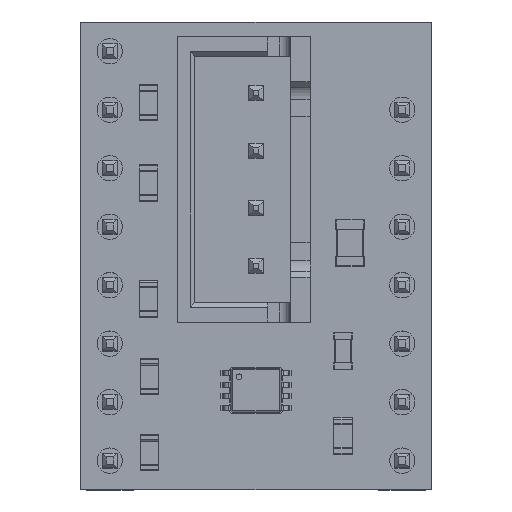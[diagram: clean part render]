
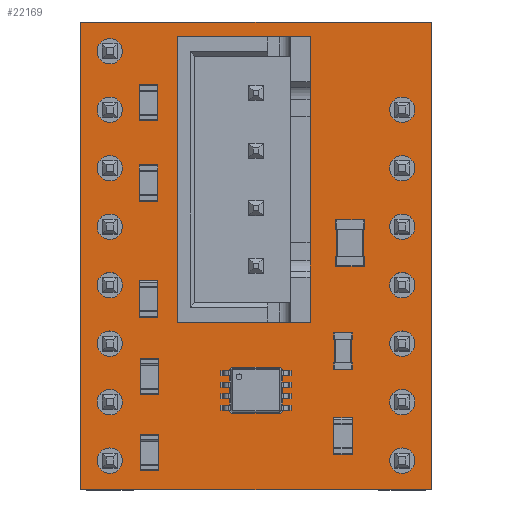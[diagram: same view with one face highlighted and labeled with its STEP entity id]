
A CAD part, top view. The second image highlights one B-rep face of the part: STEP entity #22169.
In plain terms, the highlighted planar face has unit normal (0, 0, 1).
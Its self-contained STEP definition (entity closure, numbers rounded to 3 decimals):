
#21848 = VERTEX_POINT('',#21849);
#21849 = CARTESIAN_POINT('',(15.24,0.,1.51));
#21855 = EDGE_CURVE('',#21848,#21856,#21858,.T.);
#21856 = VERTEX_POINT('',#21857);
#21857 = CARTESIAN_POINT('',(0.,0.,1.51));
#21858 = LINE('',#21859,#21860);
#21859 = CARTESIAN_POINT('',(15.24,0.,1.51));
#21860 = VECTOR('',#21861,1.);
#21861 = DIRECTION('',(-1.,0.,0.));
#21888 = VERTEX_POINT('',#21889);
#21889 = CARTESIAN_POINT('',(15.24,20.32,1.51));
#21895 = EDGE_CURVE('',#21888,#21848,#21896,.T.);
#21896 = LINE('',#21897,#21898);
#21897 = CARTESIAN_POINT('',(15.24,20.32,1.51));
#21898 = VECTOR('',#21899,1.);
#21899 = DIRECTION('',(0.,-1.,0.));
#21917 = EDGE_CURVE('',#21856,#21918,#21920,.T.);
#21918 = VERTEX_POINT('',#21919);
#21919 = CARTESIAN_POINT('',(0.,20.32,1.51));
#21920 = LINE('',#21921,#21922);
#21921 = CARTESIAN_POINT('',(0.,0.,1.51));
#21922 = VECTOR('',#21923,1.);
#21923 = DIRECTION('',(0.,1.,0.));
#22169 = ADVANCED_FACE('',(#22170,#22181,#22192,#22203,#22214,#22225,
    #22236,#22247,#22258,#22269,#22280,#22291,#22302,#22313,#22324,
    #22335,#22346,#22357,#22368,#22379),#22390,.T.);
#22170 = FACE_BOUND('',#22171,.T.);
#22171 = EDGE_LOOP('',(#22172,#22173,#22174,#22180));
#22172 = ORIENTED_EDGE('',*,*,#21855,.F.);
#22173 = ORIENTED_EDGE('',*,*,#21895,.F.);
#22174 = ORIENTED_EDGE('',*,*,#22175,.F.);
#22175 = EDGE_CURVE('',#21918,#21888,#22176,.T.);
#22176 = LINE('',#22177,#22178);
#22177 = CARTESIAN_POINT('',(0.,20.32,1.51));
#22178 = VECTOR('',#22179,1.);
#22179 = DIRECTION('',(1.,0.,0.));
#22180 = ORIENTED_EDGE('',*,*,#21917,.F.);
#22181 = FACE_BOUND('',#22182,.T.);
#22182 = EDGE_LOOP('',(#22183));
#22183 = ORIENTED_EDGE('',*,*,#22184,.T.);
#22184 = EDGE_CURVE('',#22185,#22185,#22187,.T.);
#22185 = VERTEX_POINT('',#22186);
#22186 = CARTESIAN_POINT('',(1.27,0.72,1.51));
#22187 = CIRCLE('',#22188,0.55);
#22188 = AXIS2_PLACEMENT_3D('',#22189,#22190,#22191);
#22189 = CARTESIAN_POINT('',(1.27,1.27,1.51));
#22190 = DIRECTION('',(-0.,0.,-1.));
#22191 = DIRECTION('',(-0.,-1.,0.));
#22192 = FACE_BOUND('',#22193,.T.);
#22193 = EDGE_LOOP('',(#22194));
#22194 = ORIENTED_EDGE('',*,*,#22195,.T.);
#22195 = EDGE_CURVE('',#22196,#22196,#22198,.T.);
#22196 = VERTEX_POINT('',#22197);
#22197 = CARTESIAN_POINT('',(1.27,3.26,1.51));
#22198 = CIRCLE('',#22199,0.55);
#22199 = AXIS2_PLACEMENT_3D('',#22200,#22201,#22202);
#22200 = CARTESIAN_POINT('',(1.27,3.81,1.51));
#22201 = DIRECTION('',(-0.,0.,-1.));
#22202 = DIRECTION('',(-0.,-1.,0.));
#22203 = FACE_BOUND('',#22204,.T.);
#22204 = EDGE_LOOP('',(#22205));
#22205 = ORIENTED_EDGE('',*,*,#22206,.T.);
#22206 = EDGE_CURVE('',#22207,#22207,#22209,.T.);
#22207 = VERTEX_POINT('',#22208);
#22208 = CARTESIAN_POINT('',(1.27,5.8,1.51));
#22209 = CIRCLE('',#22210,0.55);
#22210 = AXIS2_PLACEMENT_3D('',#22211,#22212,#22213);
#22211 = CARTESIAN_POINT('',(1.27,6.35,1.51));
#22212 = DIRECTION('',(-0.,0.,-1.));
#22213 = DIRECTION('',(-0.,-1.,0.));
#22214 = FACE_BOUND('',#22215,.T.);
#22215 = EDGE_LOOP('',(#22216));
#22216 = ORIENTED_EDGE('',*,*,#22217,.T.);
#22217 = EDGE_CURVE('',#22218,#22218,#22220,.T.);
#22218 = VERTEX_POINT('',#22219);
#22219 = CARTESIAN_POINT('',(1.27,8.34,1.51));
#22220 = CIRCLE('',#22221,0.55);
#22221 = AXIS2_PLACEMENT_3D('',#22222,#22223,#22224);
#22222 = CARTESIAN_POINT('',(1.27,8.89,1.51));
#22223 = DIRECTION('',(-0.,0.,-1.));
#22224 = DIRECTION('',(-0.,-1.,0.));
#22225 = FACE_BOUND('',#22226,.T.);
#22226 = EDGE_LOOP('',(#22227));
#22227 = ORIENTED_EDGE('',*,*,#22228,.T.);
#22228 = EDGE_CURVE('',#22229,#22229,#22231,.T.);
#22229 = VERTEX_POINT('',#22230);
#22230 = CARTESIAN_POINT('',(13.97,0.72,1.51));
#22231 = CIRCLE('',#22232,0.55);
#22232 = AXIS2_PLACEMENT_3D('',#22233,#22234,#22235);
#22233 = CARTESIAN_POINT('',(13.97,1.27,1.51));
#22234 = DIRECTION('',(-0.,0.,-1.));
#22235 = DIRECTION('',(0.,-1.,-0.));
#22236 = FACE_BOUND('',#22237,.T.);
#22237 = EDGE_LOOP('',(#22238));
#22238 = ORIENTED_EDGE('',*,*,#22239,.T.);
#22239 = EDGE_CURVE('',#22240,#22240,#22242,.T.);
#22240 = VERTEX_POINT('',#22241);
#22241 = CARTESIAN_POINT('',(13.97,3.26,1.51));
#22242 = CIRCLE('',#22243,0.55);
#22243 = AXIS2_PLACEMENT_3D('',#22244,#22245,#22246);
#22244 = CARTESIAN_POINT('',(13.97,3.81,1.51));
#22245 = DIRECTION('',(-0.,0.,-1.));
#22246 = DIRECTION('',(0.,-1.,-0.));
#22247 = FACE_BOUND('',#22248,.T.);
#22248 = EDGE_LOOP('',(#22249));
#22249 = ORIENTED_EDGE('',*,*,#22250,.T.);
#22250 = EDGE_CURVE('',#22251,#22251,#22253,.T.);
#22251 = VERTEX_POINT('',#22252);
#22252 = CARTESIAN_POINT('',(7.62,9.245,1.51));
#22253 = CIRCLE('',#22254,0.475);
#22254 = AXIS2_PLACEMENT_3D('',#22255,#22256,#22257);
#22255 = CARTESIAN_POINT('',(7.62,9.72,1.51));
#22256 = DIRECTION('',(-0.,0.,-1.));
#22257 = DIRECTION('',(-0.,-1.,0.));
#22258 = FACE_BOUND('',#22259,.T.);
#22259 = EDGE_LOOP('',(#22260));
#22260 = ORIENTED_EDGE('',*,*,#22261,.T.);
#22261 = EDGE_CURVE('',#22262,#22262,#22264,.T.);
#22262 = VERTEX_POINT('',#22263);
#22263 = CARTESIAN_POINT('',(13.97,5.8,1.51));
#22264 = CIRCLE('',#22265,0.55);
#22265 = AXIS2_PLACEMENT_3D('',#22266,#22267,#22268);
#22266 = CARTESIAN_POINT('',(13.97,6.35,1.51));
#22267 = DIRECTION('',(-0.,0.,-1.));
#22268 = DIRECTION('',(0.,-1.,-0.));
#22269 = FACE_BOUND('',#22270,.T.);
#22270 = EDGE_LOOP('',(#22271));
#22271 = ORIENTED_EDGE('',*,*,#22272,.T.);
#22272 = EDGE_CURVE('',#22273,#22273,#22275,.T.);
#22273 = VERTEX_POINT('',#22274);
#22274 = CARTESIAN_POINT('',(13.97,8.34,1.51));
#22275 = CIRCLE('',#22276,0.55);
#22276 = AXIS2_PLACEMENT_3D('',#22277,#22278,#22279);
#22277 = CARTESIAN_POINT('',(13.97,8.89,1.51));
#22278 = DIRECTION('',(-0.,0.,-1.));
#22279 = DIRECTION('',(0.,-1.,-0.));
#22280 = FACE_BOUND('',#22281,.T.);
#22281 = EDGE_LOOP('',(#22282));
#22282 = ORIENTED_EDGE('',*,*,#22283,.T.);
#22283 = EDGE_CURVE('',#22284,#22284,#22286,.T.);
#22284 = VERTEX_POINT('',#22285);
#22285 = CARTESIAN_POINT('',(1.27,10.88,1.51));
#22286 = CIRCLE('',#22287,0.55);
#22287 = AXIS2_PLACEMENT_3D('',#22288,#22289,#22290);
#22288 = CARTESIAN_POINT('',(1.27,11.43,1.51));
#22289 = DIRECTION('',(-0.,0.,-1.));
#22290 = DIRECTION('',(-0.,-1.,0.));
#22291 = FACE_BOUND('',#22292,.T.);
#22292 = EDGE_LOOP('',(#22293));
#22293 = ORIENTED_EDGE('',*,*,#22294,.T.);
#22294 = EDGE_CURVE('',#22295,#22295,#22297,.T.);
#22295 = VERTEX_POINT('',#22296);
#22296 = CARTESIAN_POINT('',(1.27,13.42,1.51));
#22297 = CIRCLE('',#22298,0.55);
#22298 = AXIS2_PLACEMENT_3D('',#22299,#22300,#22301);
#22299 = CARTESIAN_POINT('',(1.27,13.97,1.51));
#22300 = DIRECTION('',(-0.,0.,-1.));
#22301 = DIRECTION('',(-0.,-1.,0.));
#22302 = FACE_BOUND('',#22303,.T.);
#22303 = EDGE_LOOP('',(#22304));
#22304 = ORIENTED_EDGE('',*,*,#22305,.T.);
#22305 = EDGE_CURVE('',#22306,#22306,#22308,.T.);
#22306 = VERTEX_POINT('',#22307);
#22307 = CARTESIAN_POINT('',(1.27,15.96,1.51));
#22308 = CIRCLE('',#22309,0.55);
#22309 = AXIS2_PLACEMENT_3D('',#22310,#22311,#22312);
#22310 = CARTESIAN_POINT('',(1.27,16.51,1.51));
#22311 = DIRECTION('',(-0.,0.,-1.));
#22312 = DIRECTION('',(-0.,-1.,0.));
#22313 = FACE_BOUND('',#22314,.T.);
#22314 = EDGE_LOOP('',(#22315));
#22315 = ORIENTED_EDGE('',*,*,#22316,.T.);
#22316 = EDGE_CURVE('',#22317,#22317,#22319,.T.);
#22317 = VERTEX_POINT('',#22318);
#22318 = CARTESIAN_POINT('',(1.27,18.5,1.51));
#22319 = CIRCLE('',#22320,0.55);
#22320 = AXIS2_PLACEMENT_3D('',#22321,#22322,#22323);
#22321 = CARTESIAN_POINT('',(1.27,19.05,1.51));
#22322 = DIRECTION('',(-0.,0.,-1.));
#22323 = DIRECTION('',(-0.,-1.,0.));
#22324 = FACE_BOUND('',#22325,.T.);
#22325 = EDGE_LOOP('',(#22326));
#22326 = ORIENTED_EDGE('',*,*,#22327,.T.);
#22327 = EDGE_CURVE('',#22328,#22328,#22330,.T.);
#22328 = VERTEX_POINT('',#22329);
#22329 = CARTESIAN_POINT('',(7.62,11.745,1.51));
#22330 = CIRCLE('',#22331,0.475);
#22331 = AXIS2_PLACEMENT_3D('',#22332,#22333,#22334);
#22332 = CARTESIAN_POINT('',(7.62,12.22,1.51));
#22333 = DIRECTION('',(-0.,0.,-1.));
#22334 = DIRECTION('',(-0.,-1.,0.));
#22335 = FACE_BOUND('',#22336,.T.);
#22336 = EDGE_LOOP('',(#22337));
#22337 = ORIENTED_EDGE('',*,*,#22338,.T.);
#22338 = EDGE_CURVE('',#22339,#22339,#22341,.T.);
#22339 = VERTEX_POINT('',#22340);
#22340 = CARTESIAN_POINT('',(7.62,14.245,1.51));
#22341 = CIRCLE('',#22342,0.475);
#22342 = AXIS2_PLACEMENT_3D('',#22343,#22344,#22345);
#22343 = CARTESIAN_POINT('',(7.62,14.72,1.51));
#22344 = DIRECTION('',(-0.,0.,-1.));
#22345 = DIRECTION('',(-0.,-1.,0.));
#22346 = FACE_BOUND('',#22347,.T.);
#22347 = EDGE_LOOP('',(#22348));
#22348 = ORIENTED_EDGE('',*,*,#22349,.T.);
#22349 = EDGE_CURVE('',#22350,#22350,#22352,.T.);
#22350 = VERTEX_POINT('',#22351);
#22351 = CARTESIAN_POINT('',(13.97,10.88,1.51));
#22352 = CIRCLE('',#22353,0.55);
#22353 = AXIS2_PLACEMENT_3D('',#22354,#22355,#22356);
#22354 = CARTESIAN_POINT('',(13.97,11.43,1.51));
#22355 = DIRECTION('',(-0.,0.,-1.));
#22356 = DIRECTION('',(0.,-1.,-0.));
#22357 = FACE_BOUND('',#22358,.T.);
#22358 = EDGE_LOOP('',(#22359));
#22359 = ORIENTED_EDGE('',*,*,#22360,.T.);
#22360 = EDGE_CURVE('',#22361,#22361,#22363,.T.);
#22361 = VERTEX_POINT('',#22362);
#22362 = CARTESIAN_POINT('',(13.97,13.42,1.51));
#22363 = CIRCLE('',#22364,0.55);
#22364 = AXIS2_PLACEMENT_3D('',#22365,#22366,#22367);
#22365 = CARTESIAN_POINT('',(13.97,13.97,1.51));
#22366 = DIRECTION('',(-0.,0.,-1.));
#22367 = DIRECTION('',(0.,-1.,-0.));
#22368 = FACE_BOUND('',#22369,.T.);
#22369 = EDGE_LOOP('',(#22370));
#22370 = ORIENTED_EDGE('',*,*,#22371,.T.);
#22371 = EDGE_CURVE('',#22372,#22372,#22374,.T.);
#22372 = VERTEX_POINT('',#22373);
#22373 = CARTESIAN_POINT('',(7.62,16.745,1.51));
#22374 = CIRCLE('',#22375,0.475);
#22375 = AXIS2_PLACEMENT_3D('',#22376,#22377,#22378);
#22376 = CARTESIAN_POINT('',(7.62,17.22,1.51));
#22377 = DIRECTION('',(-0.,0.,-1.));
#22378 = DIRECTION('',(-0.,-1.,0.));
#22379 = FACE_BOUND('',#22380,.T.);
#22380 = EDGE_LOOP('',(#22381));
#22381 = ORIENTED_EDGE('',*,*,#22382,.T.);
#22382 = EDGE_CURVE('',#22383,#22383,#22385,.T.);
#22383 = VERTEX_POINT('',#22384);
#22384 = CARTESIAN_POINT('',(13.97,15.96,1.51));
#22385 = CIRCLE('',#22386,0.55);
#22386 = AXIS2_PLACEMENT_3D('',#22387,#22388,#22389);
#22387 = CARTESIAN_POINT('',(13.97,16.51,1.51));
#22388 = DIRECTION('',(-0.,0.,-1.));
#22389 = DIRECTION('',(0.,-1.,-0.));
#22390 = PLANE('',#22391);
#22391 = AXIS2_PLACEMENT_3D('',#22392,#22393,#22394);
#22392 = CARTESIAN_POINT('',(0.,0.,1.51));
#22393 = DIRECTION('',(0.,0.,1.));
#22394 = DIRECTION('',(1.,0.,-0.));
